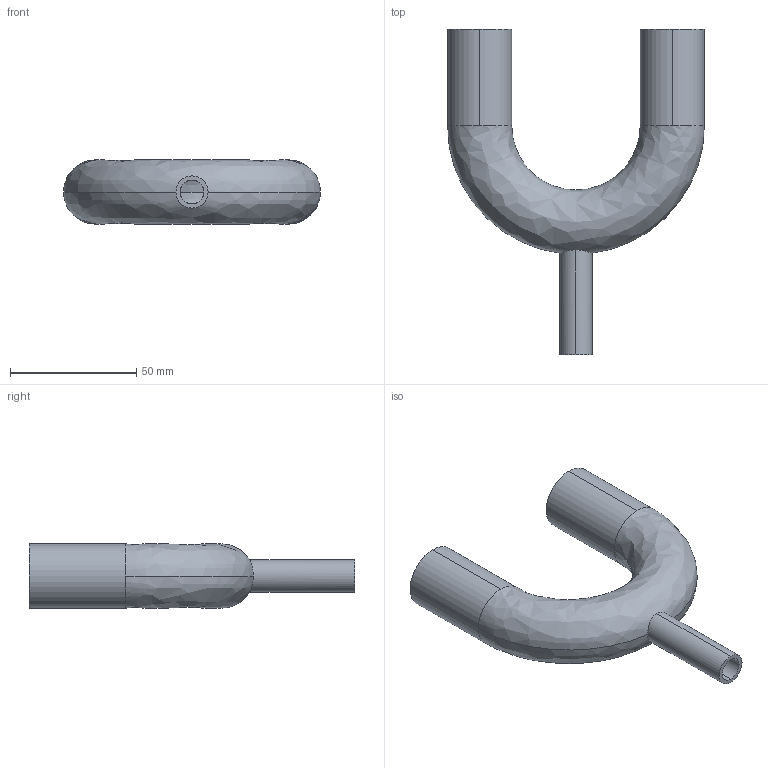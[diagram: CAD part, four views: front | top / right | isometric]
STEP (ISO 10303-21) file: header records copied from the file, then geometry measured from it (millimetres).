
FILE_DESCRIPTION (( 'STEP AP214' ), '1' );
FILE_NAME ('TE2UBWWW6L1.0x.5-...STEP', '2016-05-25T05:25:51', ( 'eran' ), ( '' ), 'SwSTEP 2.0', 'SolidWorks 2016', '' );
FILE_SCHEMA (( 'AUTOMOTIVE_DESIGN' ));
Length unit declared in the file: millimetre
Products named in the file (1): TE2UBWWW6L1.0x.5-..
Bounding box: 101.6 x 128.6 x 25.4 mm (x, y, z)
Volume: 26319.3 mm3; surface area: 32198.6 mm2
Topology: 1 solids, 1 shells, 19 faces, 54 edges, 36 vertices
Faces by surface type: cylinder 12, bspline 4, plane 3
Entity records: 872 total; most frequent: CARTESIAN_POINT 330, DIRECTION 112, ORIENTED_EDGE 108, EDGE_CURVE 54, AXIS2_PLACEMENT_3D 50, VERTEX_POINT 36, CIRCLE 34, EDGE_LOOP 22
